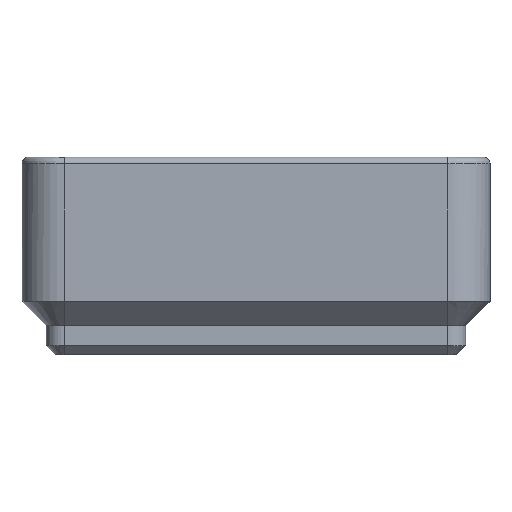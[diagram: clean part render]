
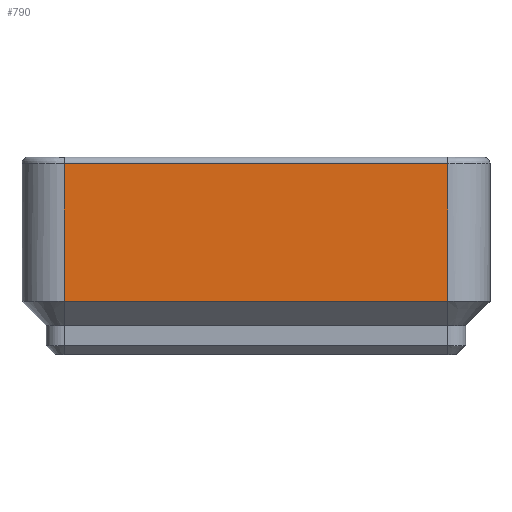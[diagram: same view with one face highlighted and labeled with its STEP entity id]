
A CAD part, left-side view. The second image highlights one B-rep face of the part: STEP entity #790.
In plain terms, the highlighted planar face has unit normal (-1, 0, 0).
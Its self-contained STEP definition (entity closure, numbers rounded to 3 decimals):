
#70 = CYLINDRICAL_SURFACE('',#71,0.6);
#71 = AXIS2_PLACEMENT_3D('',#72,#73,#74);
#72 = CARTESIAN_POINT('',(-20.15,-17.,16.951));
#73 = DIRECTION('',(0.,1.,0.));
#74 = DIRECTION('',(0.707,-0.,0.707));
#279 = VERTEX_POINT('',#280);
#280 = CARTESIAN_POINT('',(-20.75,-17.,16.951));
#308 = EDGE_CURVE('',#279,#309,#311,.T.);
#309 = VERTEX_POINT('',#310);
#310 = CARTESIAN_POINT('',(-20.75,17.,16.951));
#311 = SURFACE_CURVE('',#312,(#316,#323),.PCURVE_S1.);
#312 = LINE('',#313,#314);
#313 = CARTESIAN_POINT('',(-20.75,-17.,16.951));
#314 = VECTOR('',#315,1.);
#315 = DIRECTION('',(0.,1.,0.));
#316 = PCURVE('',#70,#317);
#317 = DEFINITIONAL_REPRESENTATION('',(#318),#322);
#318 = LINE('',#319,#320);
#319 = CARTESIAN_POINT('',(-2.356,0.));
#320 = VECTOR('',#321,1.);
#321 = DIRECTION('',(-0.,1.));
#322 = ( GEOMETRIC_REPRESENTATION_CONTEXT(2) 
PARAMETRIC_REPRESENTATION_CONTEXT() REPRESENTATION_CONTEXT('2D SPACE',''
  ) );
#323 = PCURVE('',#324,#329);
#324 = PLANE('',#325);
#325 = AXIS2_PLACEMENT_3D('',#326,#327,#328);
#326 = CARTESIAN_POINT('',(-20.75,-17.,2.6));
#327 = DIRECTION('',(-1.,0.,0.));
#328 = DIRECTION('',(0.,1.,0.));
#329 = DEFINITIONAL_REPRESENTATION('',(#330),#334);
#330 = LINE('',#331,#332);
#331 = CARTESIAN_POINT('',(0.,-14.351));
#332 = VECTOR('',#333,1.);
#333 = DIRECTION('',(1.,0.));
#334 = ( GEOMETRIC_REPRESENTATION_CONTEXT(2) 
PARAMETRIC_REPRESENTATION_CONTEXT() REPRESENTATION_CONTEXT('2D SPACE',''
  ) );
#717 = CYLINDRICAL_SURFACE('',#718,3.75);
#718 = AXIS2_PLACEMENT_3D('',#719,#720,#721);
#719 = CARTESIAN_POINT('',(-17.,-17.,2.6));
#720 = DIRECTION('',(0.,0.,-1.));
#721 = DIRECTION('',(-1.,0.,0.));
#790 = ADVANCED_FACE('',(#791),#324,.T.);
#791 = FACE_BOUND('',#792,.T.);
#792 = EDGE_LOOP('',(#793,#816,#817,#845));
#793 = ORIENTED_EDGE('',*,*,#794,.T.);
#794 = EDGE_CURVE('',#795,#279,#797,.T.);
#795 = VERTEX_POINT('',#796);
#796 = CARTESIAN_POINT('',(-20.75,-17.,4.75));
#797 = SURFACE_CURVE('',#798,(#802,#809),.PCURVE_S1.);
#798 = LINE('',#799,#800);
#799 = CARTESIAN_POINT('',(-20.75,-17.,4.75));
#800 = VECTOR('',#801,1.);
#801 = DIRECTION('',(0.,0.,1.));
#802 = PCURVE('',#324,#803);
#803 = DEFINITIONAL_REPRESENTATION('',(#804),#808);
#804 = LINE('',#805,#806);
#805 = CARTESIAN_POINT('',(0.,-2.15));
#806 = VECTOR('',#807,1.);
#807 = DIRECTION('',(0.,-1.));
#808 = ( GEOMETRIC_REPRESENTATION_CONTEXT(2) 
PARAMETRIC_REPRESENTATION_CONTEXT() REPRESENTATION_CONTEXT('2D SPACE',''
  ) );
#809 = PCURVE('',#717,#810);
#810 = DEFINITIONAL_REPRESENTATION('',(#811),#815);
#811 = LINE('',#812,#813);
#812 = CARTESIAN_POINT('',(6.283,-2.15));
#813 = VECTOR('',#814,1.);
#814 = DIRECTION('',(0.,-1.));
#815 = ( GEOMETRIC_REPRESENTATION_CONTEXT(2) 
PARAMETRIC_REPRESENTATION_CONTEXT() REPRESENTATION_CONTEXT('2D SPACE',''
  ) );
#816 = ORIENTED_EDGE('',*,*,#308,.T.);
#817 = ORIENTED_EDGE('',*,*,#818,.T.);
#818 = EDGE_CURVE('',#309,#819,#821,.T.);
#819 = VERTEX_POINT('',#820);
#820 = CARTESIAN_POINT('',(-20.75,17.,4.75));
#821 = SURFACE_CURVE('',#822,(#826,#833),.PCURVE_S1.);
#822 = LINE('',#823,#824);
#823 = CARTESIAN_POINT('',(-20.75,17.,18.4));
#824 = VECTOR('',#825,1.);
#825 = DIRECTION('',(0.,0.,-1.));
#826 = PCURVE('',#324,#827);
#827 = DEFINITIONAL_REPRESENTATION('',(#828),#832);
#828 = LINE('',#829,#830);
#829 = CARTESIAN_POINT('',(34.,-15.8));
#830 = VECTOR('',#831,1.);
#831 = DIRECTION('',(0.,1.));
#832 = ( GEOMETRIC_REPRESENTATION_CONTEXT(2) 
PARAMETRIC_REPRESENTATION_CONTEXT() REPRESENTATION_CONTEXT('2D SPACE',''
  ) );
#833 = PCURVE('',#834,#839);
#834 = CYLINDRICAL_SURFACE('',#835,3.75);
#835 = AXIS2_PLACEMENT_3D('',#836,#837,#838);
#836 = CARTESIAN_POINT('',(-17.,17.,2.6));
#837 = DIRECTION('',(0.,0.,-1.));
#838 = DIRECTION('',(-1.,0.,0.));
#839 = DEFINITIONAL_REPRESENTATION('',(#840),#844);
#840 = LINE('',#841,#842);
#841 = CARTESIAN_POINT('',(0.,-15.8));
#842 = VECTOR('',#843,1.);
#843 = DIRECTION('',(-0.,1.));
#844 = ( GEOMETRIC_REPRESENTATION_CONTEXT(2) 
PARAMETRIC_REPRESENTATION_CONTEXT() REPRESENTATION_CONTEXT('2D SPACE',''
  ) );
#845 = ORIENTED_EDGE('',*,*,#846,.F.);
#846 = EDGE_CURVE('',#795,#819,#847,.T.);
#847 = SURFACE_CURVE('',#848,(#852,#859),.PCURVE_S1.);
#848 = LINE('',#849,#850);
#849 = CARTESIAN_POINT('',(-20.75,-17.,4.75));
#850 = VECTOR('',#851,1.);
#851 = DIRECTION('',(0.,1.,0.));
#852 = PCURVE('',#324,#853);
#853 = DEFINITIONAL_REPRESENTATION('',(#854),#858);
#854 = LINE('',#855,#856);
#855 = CARTESIAN_POINT('',(0.,-2.15));
#856 = VECTOR('',#857,1.);
#857 = DIRECTION('',(1.,0.));
#858 = ( GEOMETRIC_REPRESENTATION_CONTEXT(2) 
PARAMETRIC_REPRESENTATION_CONTEXT() REPRESENTATION_CONTEXT('2D SPACE',''
  ) );
#859 = PCURVE('',#860,#865);
#860 = PLANE('',#861);
#861 = AXIS2_PLACEMENT_3D('',#862,#863,#864);
#862 = CARTESIAN_POINT('',(-19.675,-17.,3.675));
#863 = DIRECTION('',(0.707,0.,0.707)
  );
#864 = DIRECTION('',(0.,-1.,0.));
#865 = DEFINITIONAL_REPRESENTATION('',(#866),#870);
#866 = LINE('',#867,#868);
#867 = CARTESIAN_POINT('',(-0.,-1.52));
#868 = VECTOR('',#869,1.);
#869 = DIRECTION('',(-1.,0.));
#870 = ( GEOMETRIC_REPRESENTATION_CONTEXT(2) 
PARAMETRIC_REPRESENTATION_CONTEXT() REPRESENTATION_CONTEXT('2D SPACE',''
  ) );
